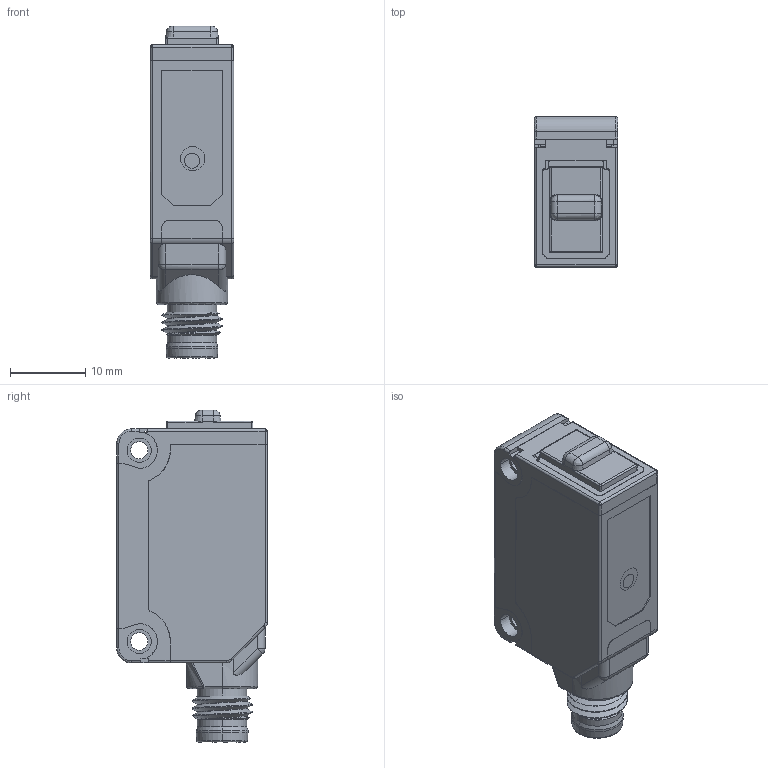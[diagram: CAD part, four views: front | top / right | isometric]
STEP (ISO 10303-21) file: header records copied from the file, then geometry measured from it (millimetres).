
FILE_DESCRIPTION (( 'STEP AP214' ), '1' );
FILE_NAME ('蚾饜极135.STEP', '2025-08-20T13:04:37', ( 'Windows User' ), ( 'P R C' ), 'SwSTEP 2.0', 'SolidWorks 2023', '' );
FILE_SCHEMA (( 'AUTOMOTIVE_DESIGN' ));
Length unit declared in the file: millimetre
Products named in the file (3): PF31插件式-1; 装配体135; pf31V--T--1
Assembly tree (2 placements, depth 2):
  装配体135
    pf31V--T--1
    PF31插件式-1
Bounding box: 11.1 x 20 x 44.1 mm (x, y, z)
Volume: 4662.8 mm3; surface area: 10407.7 mm2
Topology: 27 solids, 29 shells, 1747 faces, 4717 edges, 3037 vertices
Faces by surface type: plane 1160, cylinder 429, bspline 79, cone 53, torus 16, sphere 10
Entity records: 60734 total; most frequent: CARTESIAN_POINT 17952, ORIENTED_EDGE 9342, DIRECTION 7935, EDGE_CURVE 4671, LINE 3391, VECTOR 3391, VERTEX_POINT 3033, AXIS2_PLACEMENT_3D 2272
